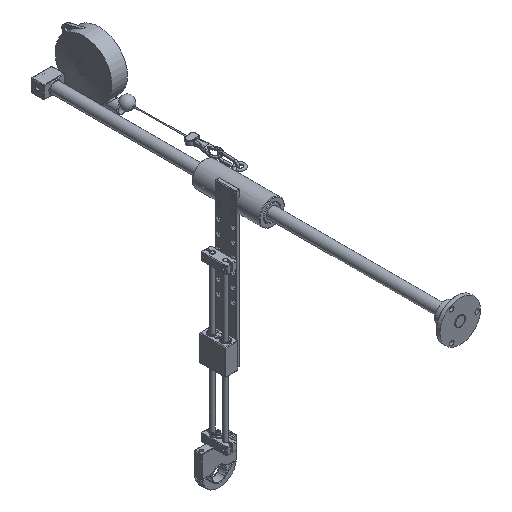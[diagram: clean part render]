
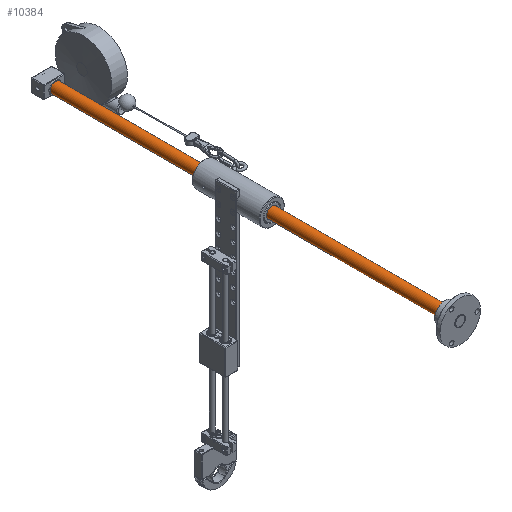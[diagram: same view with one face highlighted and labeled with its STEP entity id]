
A CAD part, isometric view. The second image highlights one B-rep face of the part: STEP entity #10384.
In plain terms, the highlighted cylindrical face has radius 10 mm (diameter 20 mm), a full revolution.
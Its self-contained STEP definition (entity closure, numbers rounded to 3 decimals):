
#670=CYLINDRICAL_SURFACE('',#11641,10.);
#4439=ORIENTED_EDGE('',*,*,#5891,.T.);
#4440=ORIENTED_EDGE('',*,*,#5892,.T.);
#5891=EDGE_CURVE('',#6826,#6826,#7307,.F.);
#5892=EDGE_CURVE('',#6827,#6827,#7308,.T.);
#6826=VERTEX_POINT('',#21021);
#6827=VERTEX_POINT('',#21023);
#7307=CIRCLE('',#11642,10.);
#7308=CIRCLE('',#11643,10.);
#8215=EDGE_LOOP('',(#4439));
#8216=EDGE_LOOP('',(#4440));
#9241=FACE_BOUND('',#8215,.T.);
#9242=FACE_BOUND('',#8216,.T.);
#10384=ADVANCED_FACE('',(#9241,#9242),#670,.T.);
#11641=AXIS2_PLACEMENT_3D('',#21019,#14500,#14501);
#11642=AXIS2_PLACEMENT_3D('',#21020,#14502,#14503);
#11643=AXIS2_PLACEMENT_3D('',#21022,#14504,#14505);
#14500=DIRECTION('',(0.,0.,-1.));
#14501=DIRECTION('',(-1.,0.,0.));
#14502=DIRECTION('',(0.,0.,-1.));
#14503=DIRECTION('',(-1.,0.,0.));
#14504=DIRECTION('',(0.,0.,-1.));
#14505=DIRECTION('',(-1.,0.,0.));
#21019=CARTESIAN_POINT('',(-20.166,15.483,800.));
#21020=CARTESIAN_POINT('',(-20.166,15.483,1.));
#21021=CARTESIAN_POINT('',(-30.166,15.483,1.));
#21022=CARTESIAN_POINT('',(-20.166,15.483,799.));
#21023=CARTESIAN_POINT('',(-30.166,15.483,799.));
